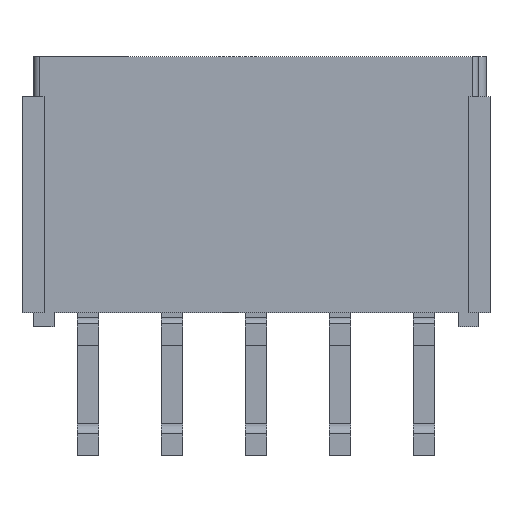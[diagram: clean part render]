
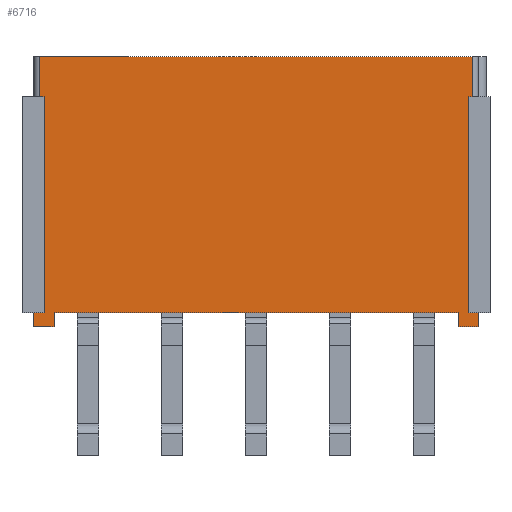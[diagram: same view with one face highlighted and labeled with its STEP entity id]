
A CAD part, front view. The second image highlights one B-rep face of the part: STEP entity #6716.
In plain terms, the highlighted planar face has unit normal (0, -1, 0).
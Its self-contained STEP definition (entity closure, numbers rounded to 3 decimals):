
#201=DIRECTION('',(-1.,0.,0.));
#202=VECTOR('',#201,21.6);
#203=CARTESIAN_POINT('',(10.8,0.4,0.));
#204=LINE('',#203,#202);
#556=DIRECTION('',(-1.,0.,0.));
#557=VECTOR('',#556,20.2);
#558=CARTESIAN_POINT('',(10.1,0.4,-12.8));
#559=LINE('',#558,#557);
#580=DIRECTION('',(-1.,0.,0.));
#581=VECTOR('',#580,0.5);
#582=CARTESIAN_POINT('',(-10.6,0.4,-12.8));
#583=LINE('',#582,#581);
#617=DIRECTION('',(-1.,0.,0.));
#618=VECTOR('',#617,0.5);
#619=CARTESIAN_POINT('',(11.1,0.4,-12.8));
#620=LINE('',#619,#618);
#2211=DIRECTION('',(0.,0.,-1.));
#2212=VECTOR('',#2211,0.7);
#2213=CARTESIAN_POINT('',(-11.1,0.4,-12.8));
#2214=LINE('',#2213,#2212);
#2255=DIRECTION('',(0.,0.,-1.));
#2256=VECTOR('',#2255,10.8);
#2257=CARTESIAN_POINT('',(10.6,0.4,-2.));
#2258=LINE('',#2257,#2256);
#2259=DIRECTION('',(0.,0.,-1.));
#2260=VECTOR('',#2259,0.7);
#2261=CARTESIAN_POINT('',(11.1,0.4,-12.8));
#2262=LINE('',#2261,#2260);
#2263=DIRECTION('',(0.,0.,-1.));
#2264=VECTOR('',#2263,0.7);
#2265=CARTESIAN_POINT('',(-10.1,0.4,-12.8));
#2266=LINE('',#2265,#2264);
#2267=DIRECTION('',(0.,0.,1.));
#2268=VECTOR('',#2267,10.8);
#2269=CARTESIAN_POINT('',(-10.6,0.4,-12.8));
#2270=LINE('',#2269,#2268);
#2271=DIRECTION('',(-1.,0.,0.));
#2272=VECTOR('',#2271,0.2);
#2273=CARTESIAN_POINT('',(-10.6,0.4,-2.));
#2274=LINE('',#2273,#2272);
#2275=DIRECTION('',(-1.,0.,0.));
#2276=VECTOR('',#2275,0.2);
#2277=CARTESIAN_POINT('',(10.8,0.4,-2.));
#2278=LINE('',#2277,#2276);
#2315=DIRECTION('',(0.,0.,-1.));
#2316=VECTOR('',#2315,0.7);
#2317=CARTESIAN_POINT('',(10.1,0.4,-12.8));
#2318=LINE('',#2317,#2316);
#2327=DIRECTION('',(-1.,0.,0.));
#2328=VECTOR('',#2327,1.);
#2329=CARTESIAN_POINT('',(-10.1,0.4,-13.5));
#2330=LINE('',#2329,#2328);
#2347=DIRECTION('',(-1.,0.,0.));
#2348=VECTOR('',#2347,1.);
#2349=CARTESIAN_POINT('',(11.1,0.4,-13.5));
#2350=LINE('',#2349,#2348);
#2355=DIRECTION('',(0.,0.,1.));
#2356=VECTOR('',#2355,2.);
#2357=CARTESIAN_POINT('',(10.8,0.4,-2.));
#2358=LINE('',#2357,#2356);
#2470=DIRECTION('',(0.,0.,1.));
#2471=VECTOR('',#2470,2.);
#2472=CARTESIAN_POINT('',(-10.8,0.4,-2.));
#2473=LINE('',#2472,#2471);
#2505=CARTESIAN_POINT('',(-10.6,0.4,-2.));
#2506=VERTEX_POINT('',#2505);
#2507=CARTESIAN_POINT('',(10.6,0.4,-2.));
#2508=VERTEX_POINT('',#2507);
#2667=CARTESIAN_POINT('',(10.8,0.4,-2.));
#2668=CARTESIAN_POINT('',(10.8,0.4,0.));
#2669=VERTEX_POINT('',#2667);
#2670=VERTEX_POINT('',#2668);
#2695=CARTESIAN_POINT('',(-10.8,0.4,0.));
#2696=VERTEX_POINT('',#2695);
#2697=CARTESIAN_POINT('',(-10.8,0.4,-2.));
#2698=VERTEX_POINT('',#2697);
#2863=CARTESIAN_POINT('',(-10.1,0.4,-13.5));
#2864=VERTEX_POINT('',#2863);
#2865=CARTESIAN_POINT('',(-11.1,0.4,-13.5));
#2866=VERTEX_POINT('',#2865);
#2868=CARTESIAN_POINT('',(11.1,0.4,-13.5));
#2870=VERTEX_POINT('',#2868);
#2871=CARTESIAN_POINT('',(10.1,0.4,-13.5));
#2872=VERTEX_POINT('',#2871);
#2879=CARTESIAN_POINT('',(-10.1,0.4,-12.8));
#2880=VERTEX_POINT('',#2879);
#2881=CARTESIAN_POINT('',(-10.6,0.4,-12.8));
#2882=CARTESIAN_POINT('',(-11.1,0.4,-12.8));
#2883=VERTEX_POINT('',#2881);
#2884=VERTEX_POINT('',#2882);
#2892=CARTESIAN_POINT('',(11.1,0.4,-12.8));
#2894=VERTEX_POINT('',#2892);
#2895=CARTESIAN_POINT('',(10.6,0.4,-12.8));
#2896=VERTEX_POINT('',#2895);
#2897=CARTESIAN_POINT('',(10.1,0.4,-12.8));
#2899=VERTEX_POINT('',#2897);
#6684=CARTESIAN_POINT('',(11.1,0.4,0.));
#6685=DIRECTION('',(0.,-1.,0.));
#6686=DIRECTION('',(-1.,0.,0.));
#6687=AXIS2_PLACEMENT_3D('',#6684,#6685,#6686);
#6688=PLANE('',#6687);
#6690=ORIENTED_EDGE('',*,*,#6689,.T.);
#6691=ORIENTED_EDGE('',*,*,#3830,.F.);
#6693=ORIENTED_EDGE('',*,*,#6692,.T.);
#6695=ORIENTED_EDGE('',*,*,#6694,.T.);
#6697=ORIENTED_EDGE('',*,*,#6696,.F.);
#6698=ORIENTED_EDGE('',*,*,#3673,.T.);
#6700=ORIENTED_EDGE('',*,*,#6699,.T.);
#6702=ORIENTED_EDGE('',*,*,#6701,.T.);
#6703=ORIENTED_EDGE('',*,*,#6612,.F.);
#6704=ORIENTED_EDGE('',*,*,#3796,.F.);
#6706=ORIENTED_EDGE('',*,*,#6705,.T.);
#6707=ORIENTED_EDGE('',*,*,#6672,.T.);
#6709=ORIENTED_EDGE('',*,*,#6708,.T.);
#6710=ORIENTED_EDGE('',*,*,#3294,.F.);
#6712=ORIENTED_EDGE('',*,*,#6711,.F.);
#6713=ORIENTED_EDGE('',*,*,#6647,.T.);
#6714=EDGE_LOOP('',(#6690,#6691,#6693,#6695,#6697,#6698,#6700,#6702,#6703,#6704,
#6706,#6707,#6709,#6710,#6712,#6713));
#6715=FACE_OUTER_BOUND('',#6714,.F.);
#6716=ADVANCED_FACE('',(#6715),#6688,.T.);
#3294=EDGE_CURVE('',#2670,#2696,#204,.T.);
#3673=EDGE_CURVE('',#2899,#2880,#559,.T.);
#3796=EDGE_CURVE('',#2883,#2884,#583,.T.);
#3830=EDGE_CURVE('',#2894,#2896,#620,.T.);
#6612=EDGE_CURVE('',#2884,#2866,#2214,.T.);
#6647=EDGE_CURVE('',#2669,#2508,#2278,.T.);
#6672=EDGE_CURVE('',#2506,#2698,#2274,.T.);
#6689=EDGE_CURVE('',#2508,#2896,#2258,.T.);
#6692=EDGE_CURVE('',#2894,#2870,#2262,.T.);
#6694=EDGE_CURVE('',#2870,#2872,#2350,.T.);
#6696=EDGE_CURVE('',#2899,#2872,#2318,.T.);
#6699=EDGE_CURVE('',#2880,#2864,#2266,.T.);
#6701=EDGE_CURVE('',#2864,#2866,#2330,.T.);
#6705=EDGE_CURVE('',#2883,#2506,#2270,.T.);
#6708=EDGE_CURVE('',#2698,#2696,#2473,.T.);
#6711=EDGE_CURVE('',#2669,#2670,#2358,.T.);
